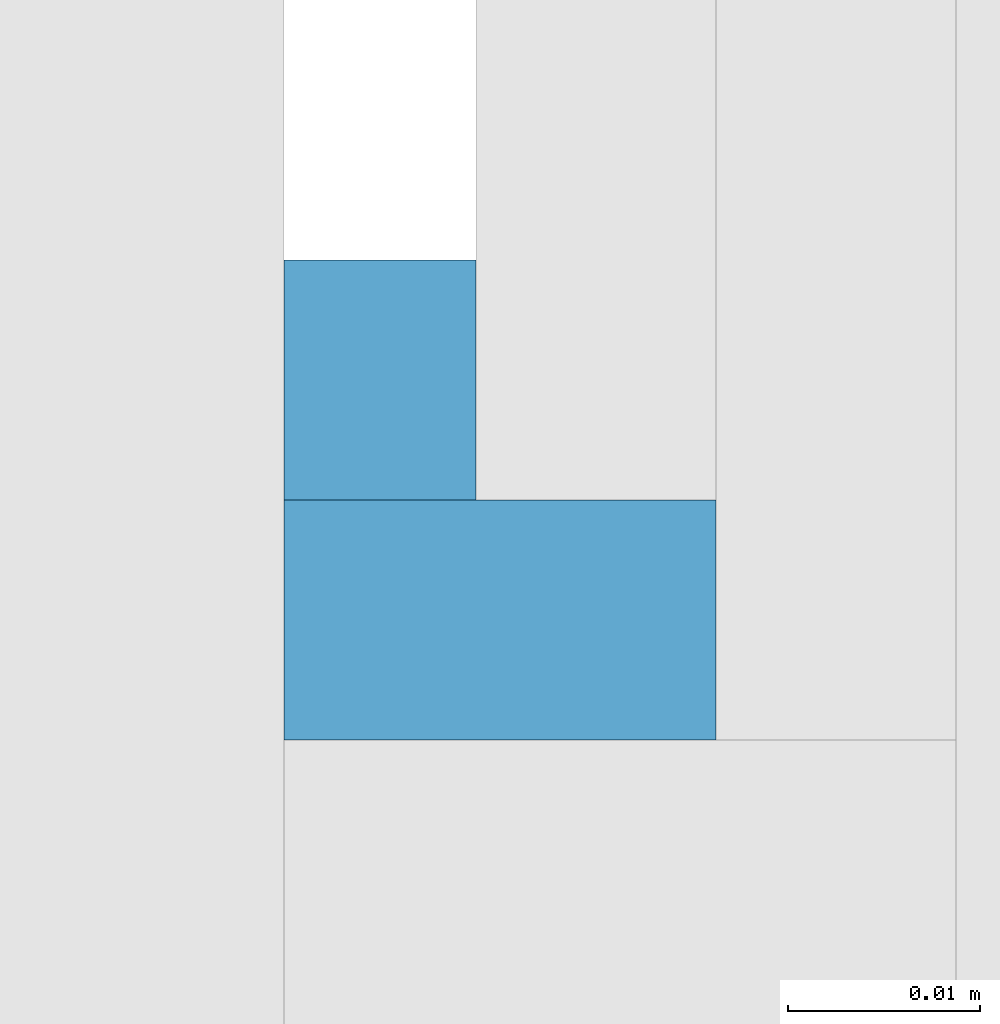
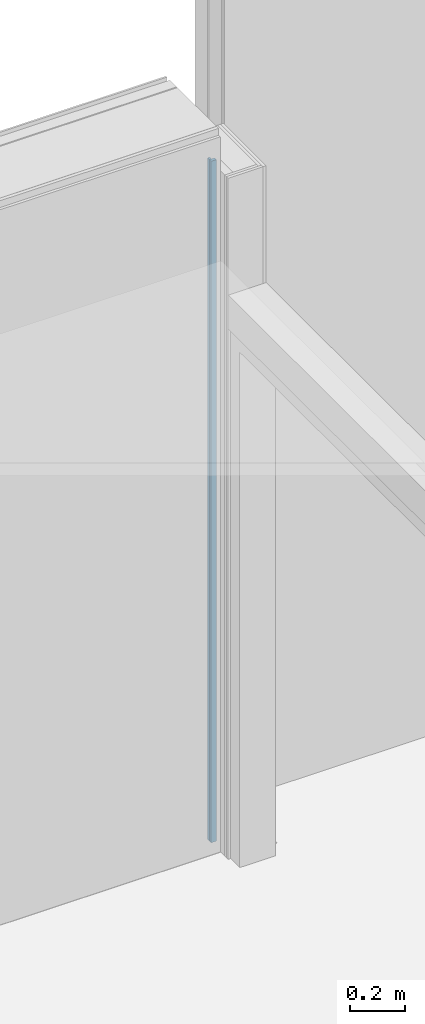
# One storey, part 14 of 35: 2 building element parts, 1 element without a shape of its own.
"""IFC2X3 building model written with IfcOpenShell, lengths in millimetres."""

from ifc_helpers import new_model, entity, si_unit, converted_unit, derived_unit, money_unit, direction, frame, origin_with_axes, place, context, subcontext, project, spatial, faceted_brep, material, type_object, element, aggregate, save


model = new_model("IFC2X3")

# Units and contexts
model_context = context("Model", 3, precision=0.01, world=origin_with_axes(), true_north=direction((0.0, 1.0)))
body_context = subcontext(model_context, "Body", "Model", "MODEL_VIEW")
ifc_project = project(units=[si_unit("LENGTHUNIT", "METRE", prefix="MILLI"), si_unit("AREAUNIT", "SQUARE_METRE"), si_unit("VOLUMEUNIT", "CUBIC_METRE"), converted_unit("PLANEANGLEUNIT", "DEGREE", entity("IfcPlaneAngleMeasure", 0.0174532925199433), si_unit("PLANEANGLEUNIT", "RADIAN"), dimensions=[0, 0, 0, 0, 0, 0, 0]), money_unit("EUR"), converted_unit("TIMEUNIT", "Year", entity("IfcTimeMeasure", 31557600.0), si_unit("TIMEUNIT", "SECOND"), dimensions=[0, 0, 1, 0, 0, 0, 0]), si_unit("MASSUNIT", "GRAM", prefix="KILO"), si_unit("THERMODYNAMICTEMPERATUREUNIT", "DEGREE_CELSIUS"), si_unit("LUMINOUSINTENSITYUNIT", "LUMEN"), si_unit("ENERGYUNIT", "JOULE", prefix="MEGA"), derived_unit("THERMALCONDUCTANCEUNIT", [(si_unit("POWERUNIT", "WATT"), 1), (si_unit("LENGTHUNIT", "METRE"), -1), (si_unit("THERMODYNAMICTEMPERATUREUNIT", "KELVIN"), -1)]), derived_unit("SPECIFICHEATCAPACITYUNIT", [(si_unit("ENERGYUNIT", "JOULE"), 1), (si_unit("MASSUNIT", "GRAM", prefix="KILO"), -1), (si_unit("THERMODYNAMICTEMPERATUREUNIT", "KELVIN"), -1)]), derived_unit("MASSDENSITYUNIT", [(si_unit("MASSUNIT", "GRAM", prefix="KILO"), 1), (si_unit("VOLUMEUNIT", "CUBIC_METRE"), -1)])], contexts=[model_context])

# Site, building, storey
site_placement = place(None, origin_with_axes())
site = spatial("IfcSite", under=ifc_project, at=site_placement, Name="<site naam>", CompositionType="ELEMENT")
building_placement = place(site_placement, origin_with_axes())
building = spatial("IfcBuilding", under=site, at=building_placement, Name="<Naam gebouw>", CompositionType="ELEMENT")
storey_placement = place(building_placement, frame((0.0, 0.0, 6345.0), z_axis=(0.0, 0.0, 1.0), x_axis=(1.0, 0.0, 0.0)))
storey = spatial("IfcBuildingStorey", under=building, at=storey_placement, Name="02 2e tussenverdieping", CompositionType="ELEMENT", Elevation=6345.0)

# Wall, building element parts
wall_type = type_object("IfcWallType", Name="MS-01 GF 150 ECO DGS/2.100.2.A 150", PredefinedType="NOTDEFINED")
wall_placement = place(storey_placement, frame((58317.78284470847, 19469.99986256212, 0.0), z_axis=(0.0, 0.0, 1.0), x_axis=(-1.0, 0.0, 0.0)))
wall = element("IfcWall", 1, at=wall_placement, inside=storey, type_object=wall_type, Name="22_Binnenwand_MS-01")
ifc_material = material(Name="gipsplaat")
building_element_part_1_placement = place(wall_placement, origin_with_axes())
building_element_part_1 = element("IfcBuildingElementPart", 2, at=building_element_part_1_placement, material=ifc_material, Name="gipsplaat", context=body_context, shape_type="Brep", body=[
    faceted_brep([(159.9999311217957, -137.4999999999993, 3038.000000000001), (159.9999311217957, -125.0, 3038.000000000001), (137.5000000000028, -125.0, 3038.000000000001), (137.5000000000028, -137.4999999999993, 3038.000000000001), (159.9999311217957, -137.4999999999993, 0.0), (159.9999311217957, -125.0, 0.0), (137.5000000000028, -125.0, 0.0), (137.5000000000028, -137.4999999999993, 0.0)], [[[0, 1, 2, 3]], [[0, 4, 5, 1]], [[1, 5, 6, 2]], [[3, 2, 6, 7]], [[4, 0, 3, 7]], [[5, 4, 7, 6]]]),
])
building_element_part_2_placement = place(wall_placement, origin_with_axes())
building_element_part_2 = element("IfcBuildingElementPart", 3, at=building_element_part_2_placement, material=ifc_material, Name="gipsplaat", context=body_context, shape_type="Brep", body=[
    faceted_brep([(159.9999311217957, -149.9999999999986, 3038.000000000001), (159.9999311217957, -137.4999999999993, 3038.000000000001), (149.9999999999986, -137.4999999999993, 3038.000000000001), (149.9999999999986, -149.9999999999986, 3038.000000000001), (159.9999311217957, -149.9999999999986, 0.0), (159.9999311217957, -137.4999999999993, 0.0), (149.9999999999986, -137.4999999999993, 0.0), (149.9999999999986, -149.9999999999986, 0.0)], [[[0, 1, 2, 3]], [[0, 4, 5, 1]], [[1, 5, 6, 2]], [[3, 2, 6, 7]], [[4, 0, 3, 7]], [[5, 4, 7, 6]]]),
])
aggregate(wall, [building_element_part_1, building_element_part_2])

save(model, "model.ifc")
